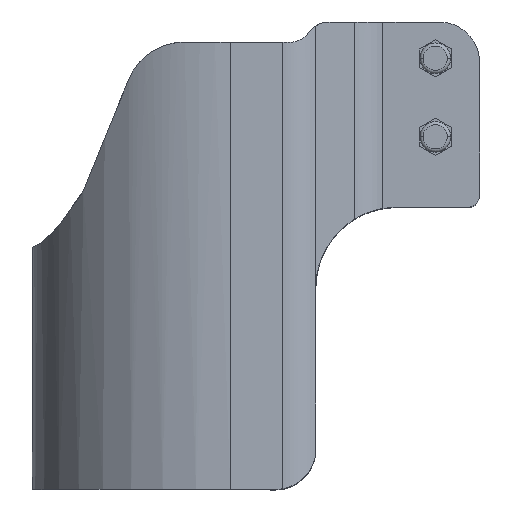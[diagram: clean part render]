
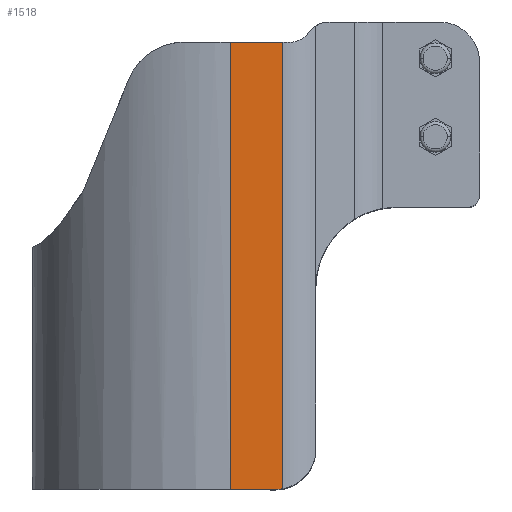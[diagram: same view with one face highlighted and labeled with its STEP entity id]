
A CAD part, top view. The second image highlights one B-rep face of the part: STEP entity #1518.
In plain terms, the highlighted planar face has unit normal (0, 0, 1).
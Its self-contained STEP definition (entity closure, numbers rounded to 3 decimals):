
#7 = ORIENTED_EDGE ( 'NONE', *, *, #686, .F. ) ;
#110 = CARTESIAN_POINT ( 'NONE',  ( 7.153, 146., 49.1 ) ) ;
#172 = VERTEX_POINT ( 'NONE', #473 ) ;
#279 = CARTESIAN_POINT ( 'NONE',  ( -5.9, 30., 49.1 ) ) ;
#294 = VERTEX_POINT ( 'NONE', #2222 ) ;
#343 = CIRCLE ( 'NONE', #2279, 10. ) ;
#353 = PLANE ( 'NONE',  #1914 ) ;
#382 = LINE ( 'NONE', #110, #2416 ) ;
#447 = LINE ( 'NONE', #279, #1863 ) ;
#473 = CARTESIAN_POINT ( 'NONE',  ( 7.153, 30.163, 49.1 ) ) ;
#613 = DIRECTION ( 'NONE',  ( 1., 0., 0. ) ) ;
#686 = EDGE_CURVE ( 'NONE', #2386, #172, #382, .T. ) ;
#754 = CARTESIAN_POINT ( 'NONE',  ( 5.356, 40., 49.1 ) ) ;
#835 = DIRECTION ( 'NONE',  ( 0., -1., 0. ) ) ;
#839 = ORIENTED_EDGE ( 'NONE', *, *, #1590, .T. ) ;
#1024 = ORIENTED_EDGE ( 'NONE', *, *, #2921, .T. ) ;
#1108 = DIRECTION ( 'NONE',  ( 1., 0., 0. ) ) ;
#1182 = VECTOR ( 'NONE', #3340, 1000. ) ;
#1192 = CARTESIAN_POINT ( 'NONE',  ( -5.9, 146., 49.1 ) ) ;
#1262 = VERTEX_POINT ( 'NONE', #2692 ) ;
#1315 = CARTESIAN_POINT ( 'NONE',  ( 5.356, 30., 49.1 ) ) ;
#1476 = DIRECTION ( 'NONE',  ( 0., -1., 0. ) ) ;
#1518 = ADVANCED_FACE ( 'NONE', ( #2307 ), #353, .F. ) ;
#1590 = EDGE_CURVE ( 'NONE', #1262, #2633, #447, .T. ) ;
#1863 = VECTOR ( 'NONE', #1108, 1000. ) ;
#1914 = AXIS2_PLACEMENT_3D ( 'NONE', #1192, #2915, #2848 ) ;
#2015 = CARTESIAN_POINT ( 'NONE',  ( 7.153, 141., 49.1 ) ) ;
#2064 = ORIENTED_EDGE ( 'NONE', *, *, #2218, .T. ) ;
#2117 = CARTESIAN_POINT ( 'NONE',  ( 9.224, 141., 49.1 ) ) ;
#2218 = EDGE_CURVE ( 'NONE', #2633, #172, #343, .T. ) ;
#2222 = CARTESIAN_POINT ( 'NONE',  ( -5.9, 141., 49.1 ) ) ;
#2279 = AXIS2_PLACEMENT_3D ( 'NONE', #754, #3136, #613 ) ;
#2307 = FACE_OUTER_BOUND ( 'NONE', #3434, .T. ) ;
#2328 = VECTOR ( 'NONE', #1476, 1000. ) ;
#2386 = VERTEX_POINT ( 'NONE', #2015 ) ;
#2416 = VECTOR ( 'NONE', #835, 1000. ) ;
#2547 = ORIENTED_EDGE ( 'NONE', *, *, #2876, .T. ) ;
#2633 = VERTEX_POINT ( 'NONE', #1315 ) ;
#2692 = CARTESIAN_POINT ( 'NONE',  ( -5.9, 30., 49.1 ) ) ;
#2737 = LINE ( 'NONE', #2117, #1182 ) ;
#2785 = CARTESIAN_POINT ( 'NONE',  ( -5.9, 146., 49.1 ) ) ;
#2848 = DIRECTION ( 'NONE',  ( -1., 0., 0. ) ) ;
#2876 = EDGE_CURVE ( 'NONE', #2386, #294, #2737, .T. ) ;
#2915 = DIRECTION ( 'NONE',  ( 0., 0., -1. ) ) ;
#2921 = EDGE_CURVE ( 'NONE', #294, #1262, #3426, .T. ) ;
#3136 = DIRECTION ( 'NONE',  ( 0., 0., 1. ) ) ;
#3340 = DIRECTION ( 'NONE',  ( -1., 0., 0. ) ) ;
#3426 = LINE ( 'NONE', #2785, #2328 ) ;
#3434 = EDGE_LOOP ( 'NONE', ( #2547, #1024, #839, #2064, #7 ) ) ;
